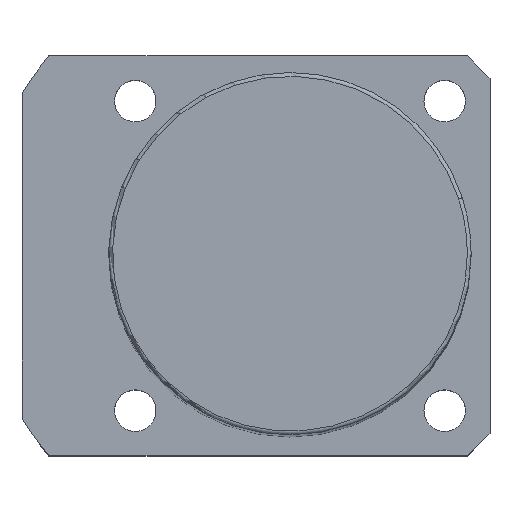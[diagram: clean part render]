
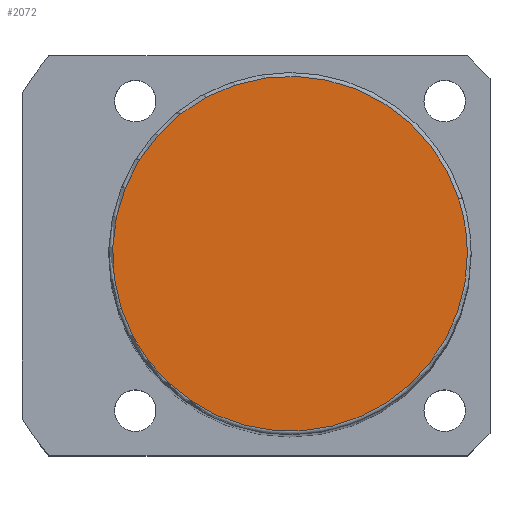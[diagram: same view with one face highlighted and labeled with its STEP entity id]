
A CAD part, top view. The second image highlights one B-rep face of the part: STEP entity #2072.
In plain terms, the highlighted planar face has unit normal (0, 0, 1).
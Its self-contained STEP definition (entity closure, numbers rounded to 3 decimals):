
#2038=CARTESIAN_POINT('',(23.5,0.0,174.0));
#2039=VERTEX_POINT('',#2038);
#2040=CARTESIAN_POINT('',(22.35,7.262,174.0));
#2041=VERTEX_POINT('',#2040);
#2042=CARTESIAN_POINT('',(0.0,0.0,174.0));
#2043=DIRECTION('',(0.0,0.0,1.0));
#2044=DIRECTION('',(1.0,0.0,0.0));
#2045=AXIS2_PLACEMENT_3D('',#2042,#2043,#2044);
#2046=CIRCLE('',#2045,23.5);
#2047=EDGE_CURVE('no 2102',#2039,#2041,#2046,.T.);
#2048=ORIENTED_EDGE('',*,*,#2047,.T.);
#2049=CARTESIAN_POINT('',(-22.35,-7.262,174.0));
#2050=VERTEX_POINT('',#2049);
#2051=CARTESIAN_POINT('',(0.0,0.0,174.0));
#2052=DIRECTION('',(0.0,0.0,1.0));
#2053=DIRECTION('',(1.0,0.0,0.0));
#2054=AXIS2_PLACEMENT_3D('',#2051,#2052,#2053);
#2055=CIRCLE('',#2054,23.5);
#2056=EDGE_CURVE('no 2108',#2041,#2050,#2055,.T.);
#2057=ORIENTED_EDGE('',*,*,#2056,.T.);
#2058=CARTESIAN_POINT('',(0.0,0.0,174.0));
#2059=DIRECTION('',(0.0,0.0,1.0));
#2060=DIRECTION('',(1.0,0.0,0.0));
#2061=AXIS2_PLACEMENT_3D('',#2058,#2059,#2060);
#2062=CIRCLE('',#2061,23.5);
#2063=EDGE_CURVE('no 2112',#2050,#2039,#2062,.T.);
#2064=ORIENTED_EDGE('',*,*,#2063,.T.);
#2065=EDGE_LOOP('',(#2048,#2057,#2064));
#2066=FACE_OUTER_BOUND('',#2065,.T.);
#2067=CARTESIAN_POINT('',(0.0,0.0,174.0));
#2068=DIRECTION('',(0.0,0.0,1.0));
#2069=DIRECTION('',(1.0,0.0,0.0));
#2070=AXIS2_PLACEMENT_3D('',#2067,#2068,#2069);
#2071=PLANE('',#2070);
#2072=ADVANCED_FACE('no 2093',(#2066),#2071,.T.);
